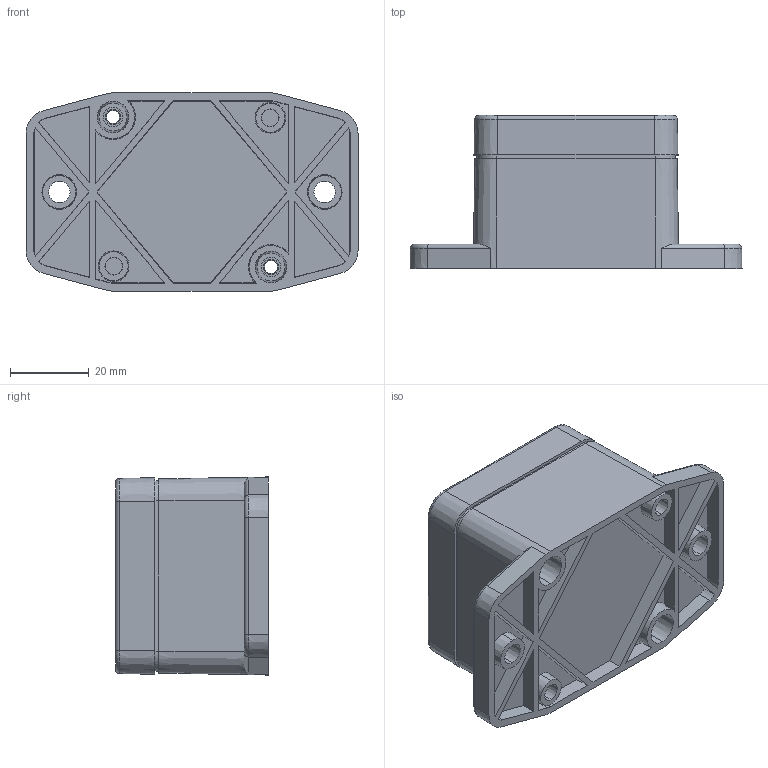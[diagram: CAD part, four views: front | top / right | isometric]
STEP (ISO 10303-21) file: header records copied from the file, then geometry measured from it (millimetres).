
FILE_DESCRIPTION (( 'STEP AP203' ), '1' );
FILE_NAME ('SF-202-0-0.STEP', '2020-02-01T06:07:10', ( '' ), ( '' ), 'SwSTEP 2.0', 'SolidWorks 2020', '' );
FILE_SCHEMA (( 'CONFIG_CONTROL_DESIGN' ));
Length unit declared in the file: millimetre
Products named in the file (4): SE-202-P-1; SF-202-P-2; SF-202_pcb_sample; SF-202-0-0
Assembly tree (3 placements, depth 2):
  SF-202-0-0
    SF-202-P-2
    SE-202-P-1
    SF-202_pcb_sample
Bounding box: 84.3 x 38.8 x 50.31 mm (x, y, z)
Volume: 40656.3 mm3; surface area: 38532.3 mm2
Topology: 5 solids, 5 shells, 676 faces, 1767 edges, 1148 vertices
Faces by surface type: plane 269, cone 155, cylinder 128, bspline 116, torus 8
Entity records: 22613 total; most frequent: CARTESIAN_POINT 6071, ORIENTED_EDGE 3534, DIRECTION 3181, EDGE_CURVE 1767, AXIS2_PLACEMENT_3D 1176, VERTEX_POINT 1148, VECTOR 829, LINE 829
